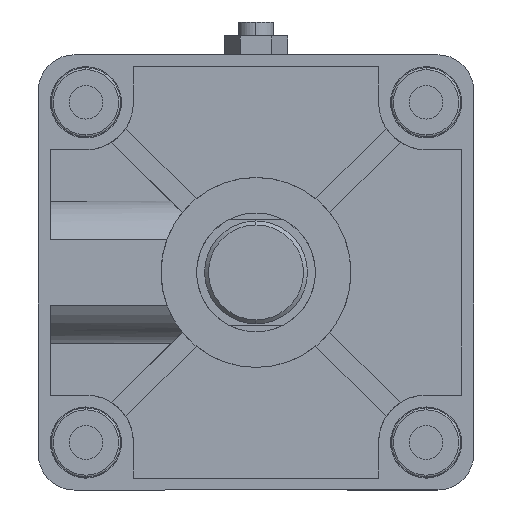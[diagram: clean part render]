
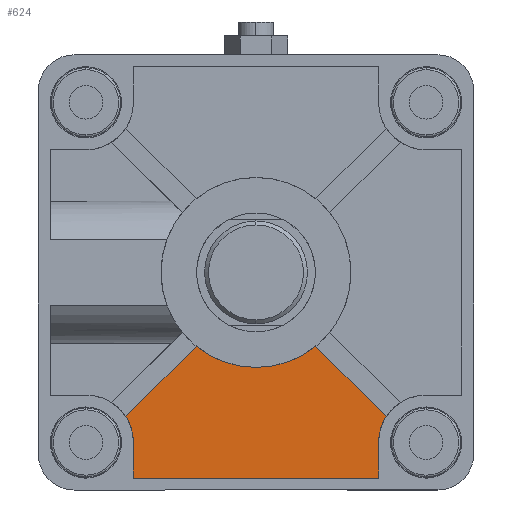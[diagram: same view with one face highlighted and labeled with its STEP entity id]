
A CAD part, left-side view. The second image highlights one B-rep face of the part: STEP entity #624.
In plain terms, the highlighted planar face has unit normal (-1, 0, 0) as drawn and (1, 0, 0) by its records, which use the part's own axes.
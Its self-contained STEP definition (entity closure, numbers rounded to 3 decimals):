
#70 = CARTESIAN_POINT ( 'NONE',  ( -3., 32.933, 36.469 ) ) ;
#76 = PLANE ( 'NONE',  #677 ) ;
#124 = EDGE_CURVE ( 'NONE', #722, #7428, #6262, .T. ) ;
#346 = CARTESIAN_POINT ( 'NONE',  ( -3., -32.933, 36.469 ) ) ;
#372 = DIRECTION ( 'NONE',  ( 0., 0., -1. ) ) ;
#481 = LINE ( 'NONE', #7333, #9058 ) ;
#511 = AXIS2_PLACEMENT_3D ( 'NONE', #1632, #889, #7316 ) ;
#549 = ORIENTED_EDGE ( 'NONE', *, *, #4077, .F. ) ;
#624 = ADVANCED_FACE ( 'NONE', ( #799 ), #76, .T. ) ;
#677 = AXIS2_PLACEMENT_3D ( 'NONE', #1414, #5320, #372 ) ;
#706 = CARTESIAN_POINT ( 'NONE',  ( -3., 0., 0. ) ) ;
#722 = VERTEX_POINT ( 'NONE', #7248 ) ;
#799 = FACE_OUTER_BOUND ( 'NONE', #2505, .T. ) ;
#862 = DIRECTION ( 'NONE',  ( 0., 0., -1. ) ) ;
#879 = AXIS2_PLACEMENT_3D ( 'NONE', #706, #2805, #862 ) ;
#889 = DIRECTION ( 'NONE',  ( -1., 0., 0. ) ) ;
#1087 = CIRCLE ( 'NONE', #8954, 12. ) ;
#1316 = CARTESIAN_POINT ( 'NONE',  ( -3., -31., 43. ) ) ;
#1358 = EDGE_CURVE ( 'NONE', #8940, #722, #8767, .T. ) ;
#1398 = CARTESIAN_POINT ( 'NONE',  ( -3., -31., 0. ) ) ;
#1414 = CARTESIAN_POINT ( 'NONE',  ( -3., 0., 0. ) ) ;
#1479 = VECTOR ( 'NONE', #7937, 1000. ) ;
#1632 = CARTESIAN_POINT ( 'NONE',  ( -3., 0., 0. ) ) ;
#1718 = ORIENTED_EDGE ( 'NONE', *, *, #1358, .T. ) ;
#2122 = CARTESIAN_POINT ( 'NONE',  ( -3., -43., 43. ) ) ;
#2169 = AXIS2_PLACEMENT_3D ( 'NONE', #2122, #2739, #2285 ) ;
#2285 = DIRECTION ( 'NONE',  ( 0., 0., -1. ) ) ;
#2343 = DIRECTION ( 'NONE',  ( 0., -0.707, -0.707 ) ) ;
#2505 = EDGE_LOOP ( 'NONE', ( #8410, #1718, #4808, #6711, #5210, #4957, #7528, #549, #3149 ) ) ;
#2653 = CARTESIAN_POINT ( 'NONE',  ( -3., -31., 52. ) ) ;
#2736 = EDGE_CURVE ( 'NONE', #4964, #7428, #6367, .T. ) ;
#2739 = DIRECTION ( 'NONE',  ( 1., 0., 0. ) ) ;
#2805 = DIRECTION ( 'NONE',  ( -1., 0., 0. ) ) ;
#2891 = VECTOR ( 'NONE', #3648, 1000. ) ;
#3149 = ORIENTED_EDGE ( 'NONE', *, *, #4845, .F. ) ;
#3219 = VERTEX_POINT ( 'NONE', #7080 ) ;
#3351 = CARTESIAN_POINT ( 'NONE',  ( -3., 0., 52. ) ) ;
#3648 = DIRECTION ( 'NONE',  ( 0., -0.707, 0.707 ) ) ;
#4077 = EDGE_CURVE ( 'NONE', #7280, #7889, #7222, .T. ) ;
#4168 = EDGE_CURVE ( 'NONE', #8940, #6209, #5025, .T. ) ;
#4234 = CARTESIAN_POINT ( 'NONE',  ( -3., 15.11, 18.646 ) ) ;
#4541 = DIRECTION ( 'NONE',  ( -1., 0., 0. ) ) ;
#4562 = CARTESIAN_POINT ( 'NONE',  ( -3., 1.768, 1.768 ) ) ;
#4808 = ORIENTED_EDGE ( 'NONE', *, *, #124, .T. ) ;
#4845 = EDGE_CURVE ( 'NONE', #6209, #7280, #6087, .T. ) ;
#4957 = ORIENTED_EDGE ( 'NONE', *, *, #8785, .T. ) ;
#4964 = VERTEX_POINT ( 'NONE', #70 ) ;
#5025 = LINE ( 'NONE', #4562, #2891 ) ;
#5210 = ORIENTED_EDGE ( 'NONE', *, *, #6050, .T. ) ;
#5320 = DIRECTION ( 'NONE',  ( 1., 0., 0. ) ) ;
#5406 = EDGE_CURVE ( 'NONE', #3219, #7889, #5452, .T. ) ;
#5452 = LINE ( 'NONE', #3351, #6700 ) ;
#5696 = CARTESIAN_POINT ( 'NONE',  ( -3., 31., 43. ) ) ;
#5698 = DIRECTION ( 'NONE',  ( 0., 0., 1. ) ) ;
#6045 = CARTESIAN_POINT ( 'NONE',  ( -3., -1.768, 1.768 ) ) ;
#6050 = EDGE_CURVE ( 'NONE', #4964, #8154, #1087, .T. ) ;
#6087 = CIRCLE ( 'NONE', #2169, 12. ) ;
#6209 = VERTEX_POINT ( 'NONE', #346 ) ;
#6262 = CIRCLE ( 'NONE', #879, 24. ) ;
#6340 = DIRECTION ( 'NONE',  ( 0., -1., 0. ) ) ;
#6367 = LINE ( 'NONE', #6045, #7598 ) ;
#6621 = CARTESIAN_POINT ( 'NONE',  ( -3., 43., 43. ) ) ;
#6700 = VECTOR ( 'NONE', #6340, 1000. ) ;
#6711 = ORIENTED_EDGE ( 'NONE', *, *, #2736, .F. ) ;
#7080 = CARTESIAN_POINT ( 'NONE',  ( -3., 31., 52. ) ) ;
#7222 = LINE ( 'NONE', #1398, #1479 ) ;
#7248 = CARTESIAN_POINT ( 'NONE',  ( -3., 0., 24. ) ) ;
#7280 = VERTEX_POINT ( 'NONE', #1316 ) ;
#7316 = DIRECTION ( 'NONE',  ( 0., 0., -1. ) ) ;
#7333 = CARTESIAN_POINT ( 'NONE',  ( -3., 31., 0. ) ) ;
#7428 = VERTEX_POINT ( 'NONE', #4234 ) ;
#7528 = ORIENTED_EDGE ( 'NONE', *, *, #5406, .T. ) ;
#7598 = VECTOR ( 'NONE', #2343, 1000. ) ;
#7889 = VERTEX_POINT ( 'NONE', #2653 ) ;
#7924 = DIRECTION ( 'NONE',  ( 0., 0., -1. ) ) ;
#7937 = DIRECTION ( 'NONE',  ( 0., 0., 1. ) ) ;
#8154 = VERTEX_POINT ( 'NONE', #5696 ) ;
#8358 = CARTESIAN_POINT ( 'NONE',  ( -3., -15.11, 18.646 ) ) ;
#8410 = ORIENTED_EDGE ( 'NONE', *, *, #4168, .F. ) ;
#8767 = CIRCLE ( 'NONE', #511, 24. ) ;
#8785 = EDGE_CURVE ( 'NONE', #8154, #3219, #481, .T. ) ;
#8940 = VERTEX_POINT ( 'NONE', #8358 ) ;
#8954 = AXIS2_PLACEMENT_3D ( 'NONE', #6621, #4541, #7924 ) ;
#9058 = VECTOR ( 'NONE', #5698, 1000. ) ;
